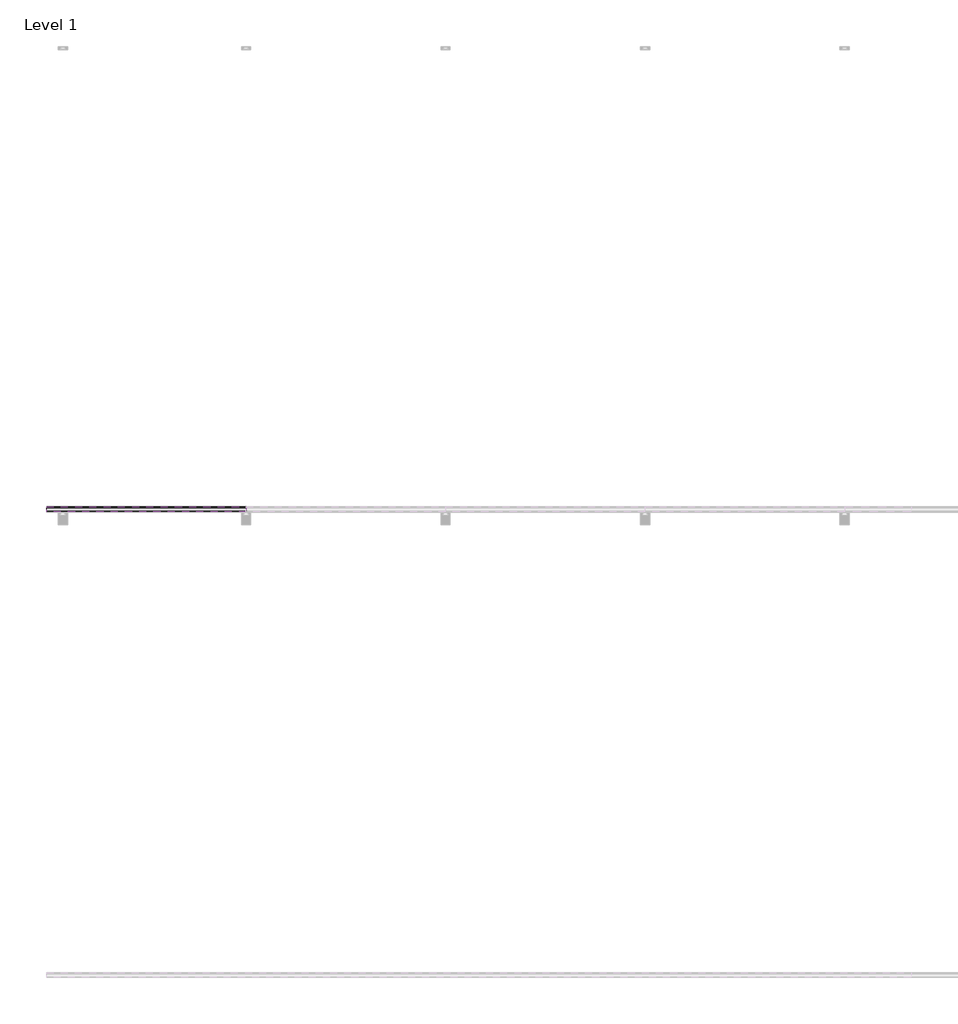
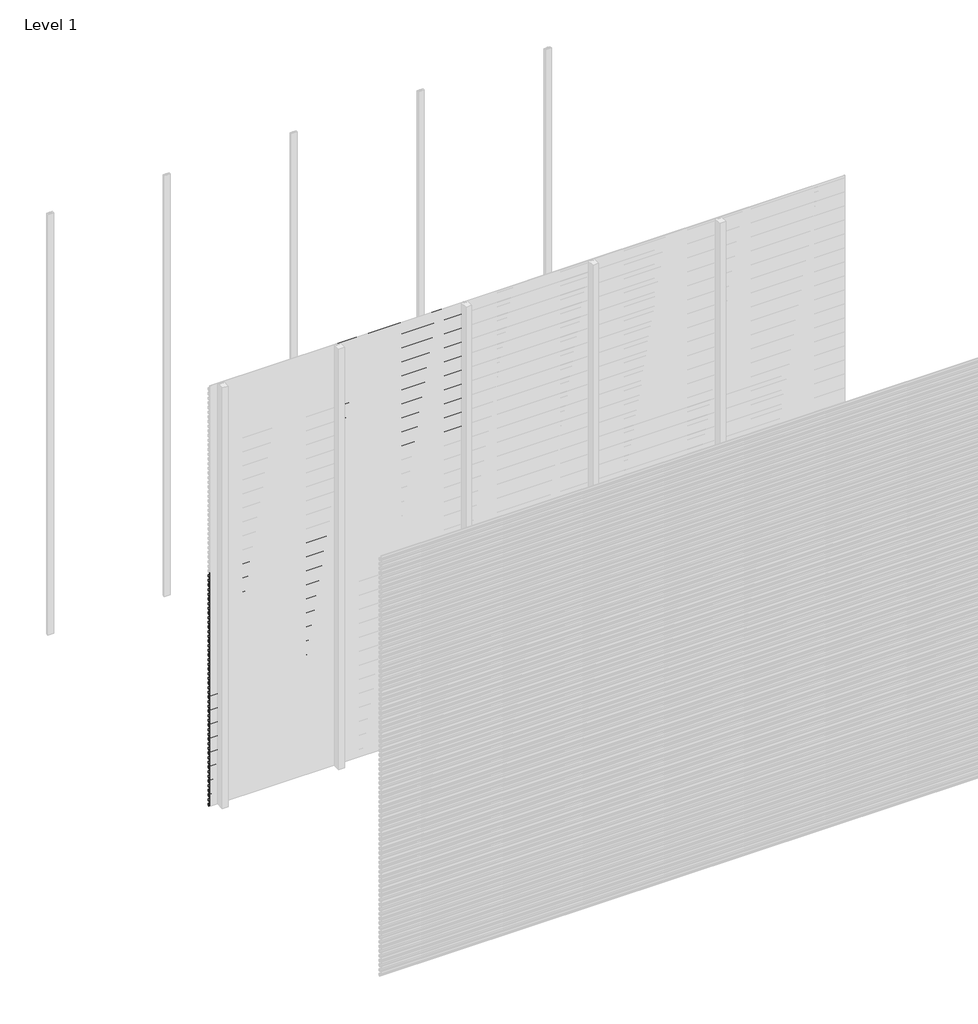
# One storey, part 43 of 96: 77 proxies.
"""IFC4 building model written with IfcOpenShell, lengths in millimetres."""

from ifc_helpers import new_model, si_unit, frame, origin, place, context, project, spatial, polyline, outline, extrude, element, save

model = new_model("IFC4")

# Units and contexts
model_context = context("Model", 3, world=origin())
ifc_project = project(units=[si_unit("LENGTHUNIT", "METRE", prefix="MILLI")], contexts=[model_context])

# Site, building, storey
site = spatial("IfcSite", under=ifc_project)
building = spatial("IfcBuilding", under=site)
storey = spatial("IfcBuildingStorey", under=building, Name="Level 1", Elevation=0.0)

# Proxies
placement = place(None, origin())
element("IfcBuildingElementProxy", 1, Name="Wall Sweeps", at=placement, inside=storey, context=model_context, shape_type="SweptSolid", body=[
    extrude(outline(polyline([(-29977.6, 1639.7655033), (-29977.6, 1625.4779188), (-29982.4114965, 1622.7), (-29982.4114965, 1623.9701706), (-29978.85, 1626.0264016), (-29978.85, 1639.0437382), (-29998.0, 1650.1000799), (-29998.0, 1665.0), (-29996.75, 1665.0), (-29996.75, 1650.8217609), (-29977.6, 1639.7655033)])), frame((0.0, 0.0, 0.0), z_axis=(1.0, 0.0, 0.0), x_axis=(0.0, 1.0, 0.0)), (0.0, 0.0, 1.0), 857.1428571),
])
element("IfcBuildingElementProxy", 2, Name="Wall Sweeps", at=placement, inside=storey, context=model_context, shape_type="SweptSolid", body=[
    extrude(outline(polyline([(-29977.6, 1606.4655033), (-29977.6, 1592.1779188), (-29982.4114965, 1589.4), (-29982.4114965, 1590.6701706), (-29978.85, 1592.7264016), (-29978.85, 1605.7437382), (-29998.0, 1616.8000799), (-29998.0, 1631.7), (-29996.75, 1631.7), (-29996.75, 1617.5217609), (-29977.6, 1606.4655033)])), frame((0.0, 0.0, 0.0), z_axis=(1.0, 0.0, 0.0), x_axis=(0.0, 1.0, 0.0)), (0.0, 0.0, 1.0), 857.1428571),
])
element("IfcBuildingElementProxy", 3, Name="Wall Sweeps", at=placement, inside=storey, context=model_context, shape_type="SweptSolid", body=[
    extrude(outline(polyline([(-29977.6, 1573.1655033), (-29977.6, 1558.8779188), (-29982.4114965, 1556.1), (-29982.4114965, 1557.3701706), (-29978.85, 1559.4264016), (-29978.85, 1572.4437382), (-29998.0, 1583.5000799), (-29998.0, 1598.4), (-29996.75, 1598.4), (-29996.75, 1584.2217609), (-29977.6, 1573.1655033)])), frame((0.0, 0.0, 0.0), z_axis=(1.0, 0.0, 0.0), x_axis=(0.0, 1.0, 0.0)), (0.0, 0.0, 1.0), 857.1428571),
])
element("IfcBuildingElementProxy", 4, Name="Wall Sweeps", at=placement, inside=storey, context=model_context, shape_type="SweptSolid", body=[
    extrude(outline(polyline([(-29977.6, 1539.8655033), (-29977.6, 1525.5779188), (-29982.4114965, 1522.8), (-29982.4114965, 1524.0701706), (-29978.85, 1526.1264016), (-29978.85, 1539.1437382), (-29998.0, 1550.2000799), (-29998.0, 1565.1), (-29996.75, 1565.1), (-29996.75, 1550.9217609), (-29977.6, 1539.8655033)])), frame((0.0, 0.0, 0.0), z_axis=(1.0, 0.0, 0.0), x_axis=(0.0, 1.0, 0.0)), (0.0, 0.0, 1.0), 857.1428571),
])
element("IfcBuildingElementProxy", 5, Name="Wall Sweeps", at=placement, inside=storey, context=model_context, shape_type="SweptSolid", body=[
    extrude(outline(polyline([(-29977.6, 1506.5655033), (-29977.6, 1492.2779188), (-29982.4114965, 1489.5), (-29982.4114965, 1490.7701706), (-29978.85, 1492.8264016), (-29978.85, 1505.8437382), (-29998.0, 1516.9000799), (-29998.0, 1531.8), (-29996.75, 1531.8), (-29996.75, 1517.6217609), (-29977.6, 1506.5655033)])), frame((0.0, 0.0, 0.0), z_axis=(1.0, 0.0, 0.0), x_axis=(0.0, 1.0, 0.0)), (0.0, 0.0, 1.0), 857.1428571),
])
element("IfcBuildingElementProxy", 6, Name="Wall Sweeps", at=placement, inside=storey, context=model_context, shape_type="SweptSolid", body=[
    extrude(outline(polyline([(-29977.6, 1473.2655033), (-29977.6, 1458.9779188), (-29982.4114965, 1456.2), (-29982.4114965, 1457.4701706), (-29978.85, 1459.5264016), (-29978.85, 1472.5437382), (-29998.0, 1483.6000799), (-29998.0, 1498.5), (-29996.75, 1498.5), (-29996.75, 1484.3217609), (-29977.6, 1473.2655033)])), frame((0.0, 0.0, 0.0), z_axis=(1.0, 0.0, 0.0), x_axis=(0.0, 1.0, 0.0)), (0.0, 0.0, 1.0), 857.1428571),
])
element("IfcBuildingElementProxy", 7, Name="Wall Sweeps", at=placement, inside=storey, context=model_context, shape_type="SweptSolid", body=[
    extrude(outline(polyline([(-29977.6, 1439.9655033), (-29977.6, 1425.6779188), (-29982.4114965, 1422.9), (-29982.4114965, 1424.1701706), (-29978.85, 1426.2264016), (-29978.85, 1439.2437382), (-29998.0, 1450.3000799), (-29998.0, 1465.2), (-29996.75, 1465.2), (-29996.75, 1451.0217609), (-29977.6, 1439.9655033)])), frame((0.0, 0.0, 0.0), z_axis=(1.0, 0.0, 0.0), x_axis=(0.0, 1.0, 0.0)), (0.0, 0.0, 1.0), 857.1428571),
])
element("IfcBuildingElementProxy", 8, Name="Wall Sweeps", at=placement, inside=storey, context=model_context, shape_type="SweptSolid", body=[
    extrude(outline(polyline([(-29977.6, 1406.6655033), (-29977.6, 1392.3779188), (-29982.4114965, 1389.6), (-29982.4114965, 1390.8701706), (-29978.85, 1392.9264016), (-29978.85, 1405.9437382), (-29998.0, 1417.0000799), (-29998.0, 1431.9), (-29996.75, 1431.9), (-29996.75, 1417.7217609), (-29977.6, 1406.6655033)])), frame((0.0, 0.0, 0.0), z_axis=(1.0, 0.0, 0.0), x_axis=(0.0, 1.0, 0.0)), (0.0, 0.0, 1.0), 857.1428571),
])
element("IfcBuildingElementProxy", 9, Name="Wall Sweeps", at=placement, inside=storey, context=model_context, shape_type="SweptSolid", body=[
    extrude(outline(polyline([(-29977.6, 1373.3655033), (-29977.6, 1359.0779188), (-29982.4114965, 1356.3), (-29982.4114965, 1357.5701706), (-29978.85, 1359.6264016), (-29978.85, 1372.6437382), (-29998.0, 1383.7000799), (-29998.0, 1398.6), (-29996.75, 1398.6), (-29996.75, 1384.4217609), (-29977.6, 1373.3655033)])), frame((0.0, 0.0, 0.0), z_axis=(1.0, 0.0, 0.0), x_axis=(0.0, 1.0, 0.0)), (0.0, 0.0, 1.0), 857.1428571),
])
element("IfcBuildingElementProxy", 10, Name="Wall Sweeps", at=placement, inside=storey, context=model_context, shape_type="SweptSolid", body=[
    extrude(outline(polyline([(-29977.6, 1340.0655033), (-29977.6, 1325.7779188), (-29982.4114965, 1323.0), (-29982.4114965, 1324.2701706), (-29978.85, 1326.3264016), (-29978.85, 1339.3437382), (-29998.0, 1350.4000799), (-29998.0, 1365.3), (-29996.75, 1365.3), (-29996.75, 1351.1217609), (-29977.6, 1340.0655033)])), frame((0.0, 0.0, 0.0), z_axis=(1.0, 0.0, 0.0), x_axis=(0.0, 1.0, 0.0)), (0.0, 0.0, 1.0), 857.1428571),
])
element("IfcBuildingElementProxy", 11, Name="Wall Sweeps", at=placement, inside=storey, context=model_context, shape_type="SweptSolid", body=[
    extrude(outline(polyline([(-29977.6, 1306.7655033), (-29977.6, 1292.4779188), (-29982.4114965, 1289.7), (-29982.4114965, 1290.9701706), (-29978.85, 1293.0264016), (-29978.85, 1306.0437382), (-29998.0, 1317.1000799), (-29998.0, 1332.0), (-29996.75, 1332.0), (-29996.75, 1317.8217609), (-29977.6, 1306.7655033)])), frame((0.0, 0.0, 0.0), z_axis=(1.0, 0.0, 0.0), x_axis=(0.0, 1.0, 0.0)), (0.0, 0.0, 1.0), 857.1428571),
])
element("IfcBuildingElementProxy", 12, Name="Wall Sweeps", at=placement, inside=storey, context=model_context, shape_type="SweptSolid", body=[
    extrude(outline(polyline([(-29977.6, 1273.4655033), (-29977.6, 1259.1779188), (-29982.4114965, 1256.4), (-29982.4114965, 1257.6701706), (-29978.85, 1259.7264016), (-29978.85, 1272.7437382), (-29998.0, 1283.8000799), (-29998.0, 1298.7), (-29996.75, 1298.7), (-29996.75, 1284.5217609), (-29977.6, 1273.4655033)])), frame((0.0, 0.0, 0.0), z_axis=(1.0, 0.0, 0.0), x_axis=(0.0, 1.0, 0.0)), (0.0, 0.0, 1.0), 857.1428571),
])
element("IfcBuildingElementProxy", 13, Name="Wall Sweeps", at=placement, inside=storey, context=model_context, shape_type="SweptSolid", body=[
    extrude(outline(polyline([(-29977.6, 1240.1655033), (-29977.6, 1225.8779188), (-29982.4114965, 1223.1), (-29982.4114965, 1224.3701706), (-29978.85, 1226.4264016), (-29978.85, 1239.4437382), (-29998.0, 1250.5000799), (-29998.0, 1265.4), (-29996.75, 1265.4), (-29996.75, 1251.2217609), (-29977.6, 1240.1655033)])), frame((0.0, 0.0, 0.0), z_axis=(1.0, 0.0, 0.0), x_axis=(0.0, 1.0, 0.0)), (0.0, 0.0, 1.0), 857.1428571),
])
element("IfcBuildingElementProxy", 14, Name="Wall Sweeps", at=placement, inside=storey, context=model_context, shape_type="SweptSolid", body=[
    extrude(outline(polyline([(-29977.6, 1206.8655033), (-29977.6, 1192.5779188), (-29982.4114965, 1189.8), (-29982.4114965, 1191.0701706), (-29978.85, 1193.1264016), (-29978.85, 1206.1437382), (-29998.0, 1217.2000799), (-29998.0, 1232.1), (-29996.75, 1232.1), (-29996.75, 1217.9217609), (-29977.6, 1206.8655033)])), frame((0.0, 0.0, 0.0), z_axis=(1.0, 0.0, 0.0), x_axis=(0.0, 1.0, 0.0)), (0.0, 0.0, 1.0), 857.1428571),
])
element("IfcBuildingElementProxy", 15, Name="Wall Sweeps", at=placement, inside=storey, context=model_context, shape_type="SweptSolid", body=[
    extrude(outline(polyline([(-29977.6, 1173.5655033), (-29977.6, 1159.2779188), (-29982.4114965, 1156.5), (-29982.4114965, 1157.7701706), (-29978.85, 1159.8264016), (-29978.85, 1172.8437382), (-29998.0, 1183.9000799), (-29998.0, 1198.8), (-29996.75, 1198.8), (-29996.75, 1184.6217609), (-29977.6, 1173.5655033)])), frame((0.0, 0.0, 0.0), z_axis=(1.0, 0.0, 0.0), x_axis=(0.0, 1.0, 0.0)), (0.0, 0.0, 1.0), 857.1428571),
])
element("IfcBuildingElementProxy", 16, Name="Wall Sweeps", at=placement, inside=storey, context=model_context, shape_type="SweptSolid", body=[
    extrude(outline(polyline([(-29977.6, 1140.2655033), (-29977.6, 1125.9779188), (-29982.4114965, 1123.2), (-29982.4114965, 1124.4701706), (-29978.85, 1126.5264016), (-29978.85, 1139.5437382), (-29998.0, 1150.6000799), (-29998.0, 1165.5), (-29996.75, 1165.5), (-29996.75, 1151.3217609), (-29977.6, 1140.2655033)])), frame((0.0, 0.0, 0.0), z_axis=(1.0, 0.0, 0.0), x_axis=(0.0, 1.0, 0.0)), (0.0, 0.0, 1.0), 857.1428571),
])
element("IfcBuildingElementProxy", 17, Name="Wall Sweeps", at=placement, inside=storey, context=model_context, shape_type="SweptSolid", body=[
    extrude(outline(polyline([(-29977.6, 1106.9655033), (-29977.6, 1092.6779188), (-29982.4114965, 1089.9), (-29982.4114965, 1091.1701706), (-29978.85, 1093.2264016), (-29978.85, 1106.2437382), (-29998.0, 1117.3000799), (-29998.0, 1132.2), (-29996.75, 1132.2), (-29996.75, 1118.0217609), (-29977.6, 1106.9655033)])), frame((0.0, 0.0, 0.0), z_axis=(1.0, 0.0, 0.0), x_axis=(0.0, 1.0, 0.0)), (0.0, 0.0, 1.0), 857.1428571),
])
element("IfcBuildingElementProxy", 18, Name="Wall Sweeps", at=placement, inside=storey, context=model_context, shape_type="SweptSolid", body=[
    extrude(outline(polyline([(-29977.6, 1073.6655033), (-29977.6, 1059.3779188), (-29982.4114965, 1056.6), (-29982.4114965, 1057.8701706), (-29978.85, 1059.9264016), (-29978.85, 1072.9437382), (-29998.0, 1084.0000799), (-29998.0, 1098.9), (-29996.75, 1098.9), (-29996.75, 1084.7217609), (-29977.6, 1073.6655033)])), frame((0.0, 0.0, 0.0), z_axis=(1.0, 0.0, 0.0), x_axis=(0.0, 1.0, 0.0)), (0.0, 0.0, 1.0), 857.1428571),
])
element("IfcBuildingElementProxy", 19, Name="Wall Sweeps", at=placement, inside=storey, context=model_context, shape_type="SweptSolid", body=[
    extrude(outline(polyline([(-29977.6, 1040.3655033), (-29977.6, 1026.0779188), (-29982.4114965, 1023.3), (-29982.4114965, 1024.5701706), (-29978.85, 1026.6264016), (-29978.85, 1039.6437382), (-29998.0, 1050.7000799), (-29998.0, 1065.6), (-29996.75, 1065.6), (-29996.75, 1051.4217609), (-29977.6, 1040.3655033)])), frame((0.0, 0.0, 0.0), z_axis=(1.0, 0.0, 0.0), x_axis=(0.0, 1.0, 0.0)), (0.0, 0.0, 1.0), 857.1428571),
])
element("IfcBuildingElementProxy", 20, Name="Wall Sweeps", at=placement, inside=storey, context=model_context, shape_type="SweptSolid", body=[
    extrude(outline(polyline([(-29977.6, 1007.0655033), (-29977.6, 992.7779188), (-29982.4114965, 990.0), (-29982.4114965, 991.2701706), (-29978.85, 993.3264016), (-29978.85, 1006.3437382), (-29998.0, 1017.4000799), (-29998.0, 1032.3), (-29996.75, 1032.3), (-29996.75, 1018.1217609), (-29977.6, 1007.0655033)])), frame((0.0, 0.0, 0.0), z_axis=(1.0, 0.0, 0.0), x_axis=(0.0, 1.0, 0.0)), (0.0, 0.0, 1.0), 857.1428571),
])
element("IfcBuildingElementProxy", 21, Name="Wall Sweeps", at=placement, inside=storey, context=model_context, shape_type="SweptSolid", body=[
    extrude(outline(polyline([(-29977.6, 973.7655033), (-29977.6, 959.4779188), (-29982.4114965, 956.7), (-29982.4114965, 957.9701706), (-29978.85, 960.0264016), (-29978.85, 973.0437382), (-29998.0, 984.1000799), (-29998.0, 999.0), (-29996.75, 999.0), (-29996.75, 984.8217609), (-29977.6, 973.7655033)])), frame((0.0, 0.0, 0.0), z_axis=(1.0, 0.0, 0.0), x_axis=(0.0, 1.0, 0.0)), (0.0, 0.0, 1.0), 857.1428571),
])
element("IfcBuildingElementProxy", 22, Name="Wall Sweeps", at=placement, inside=storey, context=model_context, shape_type="SweptSolid", body=[
    extrude(outline(polyline([(-29977.6, 940.4655033), (-29977.6, 926.1779188), (-29982.4114965, 923.4), (-29982.4114965, 924.6701706), (-29978.85, 926.7264016), (-29978.85, 939.7437382), (-29998.0, 950.8000799), (-29998.0, 965.7), (-29996.75, 965.7), (-29996.75, 951.5217609), (-29977.6, 940.4655033)])), frame((0.0, 0.0, 0.0), z_axis=(1.0, 0.0, 0.0), x_axis=(0.0, 1.0, 0.0)), (0.0, 0.0, 1.0), 857.1428571),
])
element("IfcBuildingElementProxy", 23, Name="Wall Sweeps", at=placement, inside=storey, context=model_context, shape_type="SweptSolid", body=[
    extrude(outline(polyline([(-29977.6, 907.1655033), (-29977.6, 892.8779188), (-29982.4114965, 890.1), (-29982.4114965, 891.3701706), (-29978.85, 893.4264016), (-29978.85, 906.4437382), (-29998.0, 917.5000799), (-29998.0, 932.4), (-29996.75, 932.4), (-29996.75, 918.2217609), (-29977.6, 907.1655033)])), frame((0.0, 0.0, 0.0), z_axis=(1.0, 0.0, 0.0), x_axis=(0.0, 1.0, 0.0)), (0.0, 0.0, 1.0), 857.1428571),
])
element("IfcBuildingElementProxy", 24, Name="Wall Sweeps", at=placement, inside=storey, context=model_context, shape_type="SweptSolid", body=[
    extrude(outline(polyline([(-29977.6, 873.8655033), (-29977.6, 859.5779188), (-29982.4114965, 856.8), (-29982.4114965, 858.0701706), (-29978.85, 860.1264016), (-29978.85, 873.1437382), (-29998.0, 884.2000799), (-29998.0, 899.1), (-29996.75, 899.1), (-29996.75, 884.9217609), (-29977.6, 873.8655033)])), frame((0.0, 0.0, 0.0), z_axis=(1.0, 0.0, 0.0), x_axis=(0.0, 1.0, 0.0)), (0.0, 0.0, 1.0), 857.1428571),
])
element("IfcBuildingElementProxy", 25, Name="Wall Sweeps", at=placement, inside=storey, context=model_context, shape_type="SweptSolid", body=[
    extrude(outline(polyline([(-29977.6, 840.5655033), (-29977.6, 826.2779188), (-29982.4114965, 823.5), (-29982.4114965, 824.7701706), (-29978.85, 826.8264016), (-29978.85, 839.8437382), (-29998.0, 850.9000799), (-29998.0, 865.8), (-29996.75, 865.8), (-29996.75, 851.6217609), (-29977.6, 840.5655033)])), frame((0.0, 0.0, 0.0), z_axis=(1.0, 0.0, 0.0), x_axis=(0.0, 1.0, 0.0)), (0.0, 0.0, 1.0), 857.1428571),
])
element("IfcBuildingElementProxy", 26, Name="Wall Sweeps", at=placement, inside=storey, context=model_context, shape_type="SweptSolid", body=[
    extrude(outline(polyline([(-29977.6, 807.2655033), (-29977.6, 792.9779188), (-29982.4114965, 790.2), (-29982.4114965, 791.4701706), (-29978.85, 793.5264016), (-29978.85, 806.5437382), (-29998.0, 817.6000799), (-29998.0, 832.5), (-29996.75, 832.5), (-29996.75, 818.3217609), (-29977.6, 807.2655033)])), frame((0.0, 0.0, 0.0), z_axis=(1.0, 0.0, 0.0), x_axis=(0.0, 1.0, 0.0)), (0.0, 0.0, 1.0), 857.1428571),
])
element("IfcBuildingElementProxy", 27, Name="Wall Sweeps", at=placement, inside=storey, context=model_context, shape_type="SweptSolid", body=[
    extrude(outline(polyline([(-29977.6, 773.9655033), (-29977.6, 759.6779188), (-29982.4114965, 756.9), (-29982.4114965, 758.1701706), (-29978.85, 760.2264016), (-29978.85, 773.2437382), (-29998.0, 784.3000799), (-29998.0, 799.2), (-29996.75, 799.2), (-29996.75, 785.0217609), (-29977.6, 773.9655033)])), frame((0.0, 0.0, 0.0), z_axis=(1.0, 0.0, 0.0), x_axis=(0.0, 1.0, 0.0)), (0.0, 0.0, 1.0), 857.1428571),
])
element("IfcBuildingElementProxy", 28, Name="Wall Sweeps", at=placement, inside=storey, context=model_context, shape_type="SweptSolid", body=[
    extrude(outline(polyline([(-29977.6, 740.6655033), (-29977.6, 726.3779188), (-29982.4114965, 723.6), (-29982.4114965, 724.8701706), (-29978.85, 726.9264016), (-29978.85, 739.9437382), (-29998.0, 751.0000799), (-29998.0, 765.9), (-29996.75, 765.9), (-29996.75, 751.7217609), (-29977.6, 740.6655033)])), frame((0.0, 0.0, 0.0), z_axis=(1.0, 0.0, 0.0), x_axis=(0.0, 1.0, 0.0)), (0.0, 0.0, 1.0), 857.1428571),
])
element("IfcBuildingElementProxy", 29, Name="Wall Sweeps", at=placement, inside=storey, context=model_context, shape_type="SweptSolid", body=[
    extrude(outline(polyline([(-29977.6, 707.3655033), (-29977.6, 693.0779188), (-29982.4114965, 690.3), (-29982.4114965, 691.5701706), (-29978.85, 693.6264016), (-29978.85, 706.6437382), (-29998.0, 717.7000799), (-29998.0, 732.6), (-29996.75, 732.6), (-29996.75, 718.4217609), (-29977.6, 707.3655033)])), frame((0.0, 0.0, 0.0), z_axis=(1.0, 0.0, 0.0), x_axis=(0.0, 1.0, 0.0)), (0.0, 0.0, 1.0), 857.1428571),
])
element("IfcBuildingElementProxy", 30, Name="Wall Sweeps", at=placement, inside=storey, context=model_context, shape_type="SweptSolid", body=[
    extrude(outline(polyline([(-29977.6, 674.0655033), (-29977.6, 659.7779188), (-29982.4114965, 657.0), (-29982.4114965, 658.2701706), (-29978.85, 660.3264016), (-29978.85, 673.3437382), (-29998.0, 684.4000799), (-29998.0, 699.3), (-29996.75, 699.3), (-29996.75, 685.1217609), (-29977.6, 674.0655033)])), frame((0.0, 0.0, 0.0), z_axis=(1.0, 0.0, 0.0), x_axis=(0.0, 1.0, 0.0)), (0.0, 0.0, 1.0), 857.1428571),
])
element("IfcBuildingElementProxy", 31, Name="Wall Sweeps", at=placement, inside=storey, context=model_context, shape_type="SweptSolid", body=[
    extrude(outline(polyline([(-29977.6, 640.7655033), (-29977.6, 626.4779188), (-29982.4114965, 623.7), (-29982.4114965, 624.9701706), (-29978.85, 627.0264016), (-29978.85, 640.0437382), (-29998.0, 651.1000799), (-29998.0, 666.0), (-29996.75, 666.0), (-29996.75, 651.8217609), (-29977.6, 640.7655033)])), frame((0.0, 0.0, 0.0), z_axis=(1.0, 0.0, 0.0), x_axis=(0.0, 1.0, 0.0)), (0.0, 0.0, 1.0), 857.1428571),
])
element("IfcBuildingElementProxy", 32, Name="Wall Sweeps", at=placement, inside=storey, context=model_context, shape_type="SweptSolid", body=[
    extrude(outline(polyline([(-29977.6, 607.4655033), (-29977.6, 593.1779188), (-29982.4114965, 590.4), (-29982.4114965, 591.6701706), (-29978.85, 593.7264016), (-29978.85, 606.7437382), (-29998.0, 617.8000799), (-29998.0, 632.7), (-29996.75, 632.7), (-29996.75, 618.5217609), (-29977.6, 607.4655033)])), frame((0.0, 0.0, 0.0), z_axis=(1.0, 0.0, 0.0), x_axis=(0.0, 1.0, 0.0)), (0.0, 0.0, 1.0), 857.1428571),
])
element("IfcBuildingElementProxy", 33, Name="Wall Sweeps", at=placement, inside=storey, context=model_context, shape_type="SweptSolid", body=[
    extrude(outline(polyline([(-29977.6, 574.1655033), (-29977.6, 559.8779188), (-29982.4114965, 557.1), (-29982.4114965, 558.3701706), (-29978.85, 560.4264016), (-29978.85, 573.4437382), (-29998.0, 584.5000799), (-29998.0, 599.4), (-29996.75, 599.4), (-29996.75, 585.2217609), (-29977.6, 574.1655033)])), frame((0.0, 0.0, 0.0), z_axis=(1.0, 0.0, 0.0), x_axis=(0.0, 1.0, 0.0)), (0.0, 0.0, 1.0), 857.1428571),
])
element("IfcBuildingElementProxy", 34, Name="Wall Sweeps", at=placement, inside=storey, context=model_context, shape_type="SweptSolid", body=[
    extrude(outline(polyline([(-29977.6, 540.8655033), (-29977.6, 526.5779188), (-29982.4114965, 523.8), (-29982.4114965, 525.0701706), (-29978.85, 527.1264016), (-29978.85, 540.1437382), (-29998.0, 551.2000799), (-29998.0, 566.1), (-29996.75, 566.1), (-29996.75, 551.9217609), (-29977.6, 540.8655033)])), frame((0.0, 0.0, 0.0), z_axis=(1.0, 0.0, 0.0), x_axis=(0.0, 1.0, 0.0)), (0.0, 0.0, 1.0), 857.1428571),
])
element("IfcBuildingElementProxy", 35, Name="Wall Sweeps", at=placement, inside=storey, context=model_context, shape_type="SweptSolid", body=[
    extrude(outline(polyline([(-29977.6, 507.5655033), (-29977.6, 493.2779188), (-29982.4114965, 490.5), (-29982.4114965, 491.7701706), (-29978.85, 493.8264016), (-29978.85, 506.8437382), (-29998.0, 517.9000799), (-29998.0, 532.8), (-29996.75, 532.8), (-29996.75, 518.6217609), (-29977.6, 507.5655033)])), frame((0.0, 0.0, 0.0), z_axis=(1.0, 0.0, 0.0), x_axis=(0.0, 1.0, 0.0)), (0.0, 0.0, 1.0), 857.1428571),
])
element("IfcBuildingElementProxy", 36, Name="Wall Sweeps", at=placement, inside=storey, context=model_context, shape_type="SweptSolid", body=[
    extrude(outline(polyline([(-29977.6, 474.2655033), (-29977.6, 459.9779188), (-29982.4114965, 457.2), (-29982.4114965, 458.4701706), (-29978.85, 460.5264016), (-29978.85, 473.5437382), (-29998.0, 484.6000799), (-29998.0, 499.5), (-29996.75, 499.5), (-29996.75, 485.3217609), (-29977.6, 474.2655033)])), frame((0.0, 0.0, 0.0), z_axis=(1.0, 0.0, 0.0), x_axis=(0.0, 1.0, 0.0)), (0.0, 0.0, 1.0), 857.1428571),
])
element("IfcBuildingElementProxy", 37, Name="Wall Sweeps", at=placement, inside=storey, context=model_context, shape_type="SweptSolid", body=[
    extrude(outline(polyline([(-29977.6, 440.9655033), (-29977.6, 426.6779188), (-29982.4114965, 423.9), (-29982.4114965, 425.1701706), (-29978.85, 427.2264016), (-29978.85, 440.2437382), (-29998.0, 451.3000799), (-29998.0, 466.2), (-29996.75, 466.2), (-29996.75, 452.0217609), (-29977.6, 440.9655033)])), frame((0.0, 0.0, 0.0), z_axis=(1.0, 0.0, 0.0), x_axis=(0.0, 1.0, 0.0)), (0.0, 0.0, 1.0), 857.1428571),
])
element("IfcBuildingElementProxy", 38, Name="Wall Sweeps", at=placement, inside=storey, context=model_context, shape_type="SweptSolid", body=[
    extrude(outline(polyline([(-29977.6, 407.6655033), (-29977.6, 393.3779188), (-29982.4114965, 390.6), (-29982.4114965, 391.8701706), (-29978.85, 393.9264016), (-29978.85, 406.9437382), (-29998.0, 418.0000799), (-29998.0, 432.9), (-29996.75, 432.9), (-29996.75, 418.7217609), (-29977.6, 407.6655033)])), frame((0.0, 0.0, 0.0), z_axis=(1.0, 0.0, 0.0), x_axis=(0.0, 1.0, 0.0)), (0.0, 0.0, 1.0), 857.1428571),
])
element("IfcBuildingElementProxy", 39, Name="Wall Sweeps", at=placement, inside=storey, context=model_context, shape_type="SweptSolid", body=[
    extrude(outline(polyline([(-29977.6, 374.3655033), (-29977.6, 360.0779188), (-29982.4114965, 357.3), (-29982.4114965, 358.5701706), (-29978.85, 360.6264016), (-29978.85, 373.6437382), (-29998.0, 384.7000799), (-29998.0, 399.6), (-29996.75, 399.6), (-29996.75, 385.4217609), (-29977.6, 374.3655033)])), frame((0.0, 0.0, 0.0), z_axis=(1.0, 0.0, 0.0), x_axis=(0.0, 1.0, 0.0)), (0.0, 0.0, 1.0), 857.1428571),
])
element("IfcBuildingElementProxy", 40, Name="Wall Sweeps", at=placement, inside=storey, context=model_context, shape_type="SweptSolid", body=[
    extrude(outline(polyline([(-29977.6, 341.0655033), (-29977.6, 326.7779188), (-29982.4114965, 324.0), (-29982.4114965, 325.2701706), (-29978.85, 327.3264016), (-29978.85, 340.3437382), (-29998.0, 351.4000799), (-29998.0, 366.3), (-29996.75, 366.3), (-29996.75, 352.1217609), (-29977.6, 341.0655033)])), frame((0.0, 0.0, 0.0), z_axis=(1.0, 0.0, 0.0), x_axis=(0.0, 1.0, 0.0)), (0.0, 0.0, 1.0), 857.1428571),
])
element("IfcBuildingElementProxy", 41, Name="Wall Sweeps", at=placement, inside=storey, context=model_context, shape_type="SweptSolid", body=[
    extrude(outline(polyline([(-29977.6, 307.7655033), (-29977.6, 293.4779188), (-29982.4114965, 290.7), (-29982.4114965, 291.9701706), (-29978.85, 294.0264016), (-29978.85, 307.0437382), (-29998.0, 318.1000799), (-29998.0, 333.0), (-29996.75, 333.0), (-29996.75, 318.8217609), (-29977.6, 307.7655033)])), frame((0.0, 0.0, 0.0), z_axis=(1.0, 0.0, 0.0), x_axis=(0.0, 1.0, 0.0)), (0.0, 0.0, 1.0), 857.1428571),
])
element("IfcBuildingElementProxy", 42, Name="Wall Sweeps", at=placement, inside=storey, context=model_context, shape_type="SweptSolid", body=[
    extrude(outline(polyline([(-29977.6, 274.4655033), (-29977.6, 260.1779188), (-29982.4114965, 257.4), (-29982.4114965, 258.6701706), (-29978.85, 260.7264016), (-29978.85, 273.7437382), (-29998.0, 284.8000799), (-29998.0, 299.7), (-29996.75, 299.7), (-29996.75, 285.5217609), (-29977.6, 274.4655033)])), frame((0.0, 0.0, 0.0), z_axis=(1.0, 0.0, 0.0), x_axis=(0.0, 1.0, 0.0)), (0.0, 0.0, 1.0), 857.1428571),
])
element("IfcBuildingElementProxy", 43, Name="Wall Sweeps", at=placement, inside=storey, context=model_context, shape_type="SweptSolid", body=[
    extrude(outline(polyline([(-29977.6, 241.1655033), (-29977.6, 226.8779188), (-29982.4114965, 224.1), (-29982.4114965, 225.3701706), (-29978.85, 227.4264016), (-29978.85, 240.4437382), (-29998.0, 251.5000799), (-29998.0, 266.4), (-29996.75, 266.4), (-29996.75, 252.2217609), (-29977.6, 241.1655033)])), frame((0.0, 0.0, 0.0), z_axis=(1.0, 0.0, 0.0), x_axis=(0.0, 1.0, 0.0)), (0.0, 0.0, 1.0), 857.1428571),
])
element("IfcBuildingElementProxy", 44, Name="Wall Sweeps", at=placement, inside=storey, context=model_context, shape_type="SweptSolid", body=[
    extrude(outline(polyline([(-29977.6, 207.8655033), (-29977.6, 193.5779188), (-29982.4114965, 190.8), (-29982.4114965, 192.0701706), (-29978.85, 194.1264016), (-29978.85, 207.1437382), (-29998.0, 218.2000799), (-29998.0, 233.1), (-29996.75, 233.1), (-29996.75, 218.9217609), (-29977.6, 207.8655033)])), frame((0.0, 0.0, 0.0), z_axis=(1.0, 0.0, 0.0), x_axis=(0.0, 1.0, 0.0)), (0.0, 0.0, 1.0), 857.1428571),
])
element("IfcBuildingElementProxy", 45, Name="Wall Sweeps", at=placement, inside=storey, context=model_context, shape_type="SweptSolid", body=[
    extrude(outline(polyline([(-29977.6, 174.5655033), (-29977.6, 160.2779188), (-29982.4114965, 157.5), (-29982.4114965, 158.7701706), (-29978.85, 160.8264016), (-29978.85, 173.8437382), (-29998.0, 184.9000799), (-29998.0, 199.8), (-29996.75, 199.8), (-29996.75, 185.6217609), (-29977.6, 174.5655033)])), frame((0.0, 0.0, 0.0), z_axis=(1.0, 0.0, 0.0), x_axis=(0.0, 1.0, 0.0)), (0.0, 0.0, 1.0), 857.1428571),
])
element("IfcBuildingElementProxy", 46, Name="Wall Sweeps", at=placement, inside=storey, context=model_context, shape_type="SweptSolid", body=[
    extrude(outline(polyline([(-29977.6, 141.2655033), (-29977.6, 126.9779188), (-29982.4114965, 124.2), (-29982.4114965, 125.4701706), (-29978.85, 127.5264016), (-29978.85, 140.5437382), (-29998.0, 151.6000799), (-29998.0, 166.5), (-29996.75, 166.5), (-29996.75, 152.3217609), (-29977.6, 141.2655033)])), frame((0.0, 0.0, 0.0), z_axis=(1.0, 0.0, 0.0), x_axis=(0.0, 1.0, 0.0)), (0.0, 0.0, 1.0), 857.1428571),
])
element("IfcBuildingElementProxy", 47, Name="Wall Sweeps", at=placement, inside=storey, context=model_context, shape_type="SweptSolid", body=[
    extrude(outline(polyline([(-29977.6, 107.9655033), (-29977.6, 93.6779188), (-29982.4114965, 90.9), (-29982.4114965, 92.1701706), (-29978.85, 94.2264016), (-29978.85, 107.2437382), (-29998.0, 118.3000799), (-29998.0, 133.2), (-29996.75, 133.2), (-29996.75, 119.0217609), (-29977.6, 107.9655033)])), frame((0.0, 0.0, 0.0), z_axis=(1.0, 0.0, 0.0), x_axis=(0.0, 1.0, 0.0)), (0.0, 0.0, 1.0), 857.1428571),
])
element("IfcBuildingElementProxy", 48, Name="Wall Sweeps", at=placement, inside=storey, context=model_context, shape_type="SweptSolid", body=[
    extrude(outline(polyline([(-29977.6, 74.6655033), (-29977.6, 60.3779188), (-29982.4114965, 57.6), (-29982.4114965, 58.8701706), (-29978.85, 60.9264016), (-29978.85, 73.9437382), (-29998.0, 85.0000799), (-29998.0, 99.9), (-29996.75, 99.9), (-29996.75, 85.7217609), (-29977.6, 74.6655033)])), frame((0.0, 0.0, 0.0), z_axis=(1.0, 0.0, 0.0), x_axis=(0.0, 1.0, 0.0)), (0.0, 0.0, 1.0), 857.1428571),
])
element("IfcBuildingElementProxy", 49, Name="Wall Sweeps", at=placement, inside=storey, context=model_context, shape_type="SweptSolid", body=[
    extrude(outline(polyline([(-29977.6, 41.3655033), (-29977.6, 27.0779188), (-29982.4114965, 24.3), (-29982.4114965, 25.5701706), (-29978.85, 27.6264016), (-29978.85, 40.6437382), (-29998.0, 51.7000799), (-29998.0, 66.6), (-29996.75, 66.6), (-29996.75, 52.4217609), (-29977.6, 41.3655033)])), frame((0.0, 0.0, 0.0), z_axis=(1.0, 0.0, 0.0), x_axis=(0.0, 1.0, 0.0)), (0.0, 0.0, 1.0), 857.1428571),
])
element("IfcBuildingElementProxy", 50, Name="Wall Sweeps", at=placement, inside=storey, context=model_context, shape_type="SweptSolid", body=[
    extrude(outline(polyline([(-29977.6, 8.0655033), (-29977.6, -6.2220812), (-29982.4114965, -9.0), (-29982.4114965, -7.7298294), (-29978.85, -5.6735984), (-29978.85, 7.3437382), (-29998.0, 18.4000799), (-29998.0, 33.3), (-29996.75, 33.3), (-29996.75, 19.1217609), (-29977.6, 8.0655033)])), frame((0.0, 0.0, 0.0), z_axis=(1.0, 0.0, 0.0), x_axis=(0.0, 1.0, 0.0)), (0.0, 0.0, 1.0), 857.1428571),
])
element("IfcBuildingElementProxy", 51, Name="Wall Sweeps", at=placement, inside=storey, context=model_context, shape_type="SweptSolid", body=[
    extrude(outline(polyline([(-29977.6, 2971.7655033), (-29977.6, 2957.4779188), (-29982.4114965, 2954.7), (-29982.4114965, 2955.9701706), (-29978.85, 2958.0264016), (-29978.85, 2971.0437382), (-29998.0, 2982.1000799), (-29998.0, 2997.0), (-29996.75, 2997.0), (-29996.75, 2982.8217609), (-29977.6, 2971.7655033)])), frame((857.1428571, 0.0, 0.0), z_axis=(1.0, 0.0, 0.0), x_axis=(0.0, 1.0, 0.0)), (0.0, 0.0, 1.0), 857.1428571),
])
element("IfcBuildingElementProxy", 52, Name="Wall Sweeps", at=placement, inside=storey, context=model_context, shape_type="SweptSolid", body=[
    extrude(outline(polyline([(-29977.6, 2938.4655033), (-29977.6, 2924.1779188), (-29982.4114965, 2921.4), (-29982.4114965, 2922.6701706), (-29978.85, 2924.7264016), (-29978.85, 2937.7437382), (-29998.0, 2948.8000799), (-29998.0, 2963.7), (-29996.75, 2963.7), (-29996.75, 2949.5217609), (-29977.6, 2938.4655033)])), frame((857.1428571, 0.0, 0.0), z_axis=(1.0, 0.0, 0.0), x_axis=(0.0, 1.0, 0.0)), (0.0, 0.0, 1.0), 857.1428571),
])
element("IfcBuildingElementProxy", 53, Name="Wall Sweeps", at=placement, inside=storey, context=model_context, shape_type="SweptSolid", body=[
    extrude(outline(polyline([(-29977.6, 2905.1655033), (-29977.6, 2890.8779188), (-29982.4114965, 2888.1), (-29982.4114965, 2889.3701706), (-29978.85, 2891.4264016), (-29978.85, 2904.4437382), (-29998.0, 2915.5000799), (-29998.0, 2930.4), (-29996.75, 2930.4), (-29996.75, 2916.2217609), (-29977.6, 2905.1655033)])), frame((857.1428571, 0.0, 0.0), z_axis=(1.0, 0.0, 0.0), x_axis=(0.0, 1.0, 0.0)), (0.0, 0.0, 1.0), 857.1428571),
])
element("IfcBuildingElementProxy", 54, Name="Wall Sweeps", at=placement, inside=storey, context=model_context, shape_type="SweptSolid", body=[
    extrude(outline(polyline([(-29977.6, 2871.8655033), (-29977.6, 2857.5779188), (-29982.4114965, 2854.8), (-29982.4114965, 2856.0701706), (-29978.85, 2858.1264016), (-29978.85, 2871.1437382), (-29998.0, 2882.2000799), (-29998.0, 2897.1), (-29996.75, 2897.1), (-29996.75, 2882.9217609), (-29977.6, 2871.8655033)])), frame((857.1428571, 0.0, 0.0), z_axis=(1.0, 0.0, 0.0), x_axis=(0.0, 1.0, 0.0)), (0.0, 0.0, 1.0), 857.1428571),
])
element("IfcBuildingElementProxy", 55, Name="Wall Sweeps", at=placement, inside=storey, context=model_context, shape_type="SweptSolid", body=[
    extrude(outline(polyline([(-29977.6, 2838.5655033), (-29977.6, 2824.2779188), (-29982.4114965, 2821.5), (-29982.4114965, 2822.7701706), (-29978.85, 2824.8264016), (-29978.85, 2837.8437382), (-29998.0, 2848.9000799), (-29998.0, 2863.8), (-29996.75, 2863.8), (-29996.75, 2849.6217609), (-29977.6, 2838.5655033)])), frame((857.1428571, 0.0, 0.0), z_axis=(1.0, 0.0, 0.0), x_axis=(0.0, 1.0, 0.0)), (0.0, 0.0, 1.0), 857.1428571),
])
element("IfcBuildingElementProxy", 56, Name="Wall Sweeps", at=placement, inside=storey, context=model_context, shape_type="SweptSolid", body=[
    extrude(outline(polyline([(-29977.6, 2805.2655033), (-29977.6, 2790.9779188), (-29982.4114965, 2788.2), (-29982.4114965, 2789.4701706), (-29978.85, 2791.5264016), (-29978.85, 2804.5437382), (-29998.0, 2815.6000799), (-29998.0, 2830.5), (-29996.75, 2830.5), (-29996.75, 2816.3217609), (-29977.6, 2805.2655033)])), frame((857.1428571, 0.0, 0.0), z_axis=(1.0, 0.0, 0.0), x_axis=(0.0, 1.0, 0.0)), (0.0, 0.0, 1.0), 857.1428571),
])
element("IfcBuildingElementProxy", 57, Name="Wall Sweeps", at=placement, inside=storey, context=model_context, shape_type="SweptSolid", body=[
    extrude(outline(polyline([(-29977.6, 2771.9655033), (-29977.6, 2757.6779188), (-29982.4114965, 2754.9), (-29982.4114965, 2756.1701706), (-29978.85, 2758.2264016), (-29978.85, 2771.2437382), (-29998.0, 2782.3000799), (-29998.0, 2797.2), (-29996.75, 2797.2), (-29996.75, 2783.0217609), (-29977.6, 2771.9655033)])), frame((857.1428571, 0.0, 0.0), z_axis=(1.0, 0.0, 0.0), x_axis=(0.0, 1.0, 0.0)), (0.0, 0.0, 1.0), 857.1428571),
])
element("IfcBuildingElementProxy", 58, Name="Wall Sweeps", at=placement, inside=storey, context=model_context, shape_type="SweptSolid", body=[
    extrude(outline(polyline([(-29977.6, 2738.6655033), (-29977.6, 2724.3779188), (-29982.4114965, 2721.6), (-29982.4114965, 2722.8701706), (-29978.85, 2724.9264016), (-29978.85, 2737.9437382), (-29998.0, 2749.0000799), (-29998.0, 2763.9), (-29996.75, 2763.9), (-29996.75, 2749.7217609), (-29977.6, 2738.6655033)])), frame((857.1428571, 0.0, 0.0), z_axis=(1.0, 0.0, 0.0), x_axis=(0.0, 1.0, 0.0)), (0.0, 0.0, 1.0), 857.1428571),
])
element("IfcBuildingElementProxy", 59, Name="Wall Sweeps", at=placement, inside=storey, context=model_context, shape_type="SweptSolid", body=[
    extrude(outline(polyline([(-29977.6, 2705.3655033), (-29977.6, 2691.0779188), (-29982.4114965, 2688.3), (-29982.4114965, 2689.5701706), (-29978.85, 2691.6264016), (-29978.85, 2704.6437382), (-29998.0, 2715.7000799), (-29998.0, 2730.6), (-29996.75, 2730.6), (-29996.75, 2716.4217609), (-29977.6, 2705.3655033)])), frame((857.1428571, 0.0, 0.0), z_axis=(1.0, 0.0, 0.0), x_axis=(0.0, 1.0, 0.0)), (0.0, 0.0, 1.0), 857.1428571),
])
element("IfcBuildingElementProxy", 60, Name="Wall Sweeps", at=placement, inside=storey, context=model_context, shape_type="SweptSolid", body=[
    extrude(outline(polyline([(-29977.6, 2672.0655033), (-29977.6, 2657.7779188), (-29982.4114965, 2655.0), (-29982.4114965, 2656.2701706), (-29978.85, 2658.3264016), (-29978.85, 2671.3437382), (-29998.0, 2682.4000799), (-29998.0, 2697.3), (-29996.75, 2697.3), (-29996.75, 2683.1217609), (-29977.6, 2672.0655033)])), frame((857.1428571, 0.0, 0.0), z_axis=(1.0, 0.0, 0.0), x_axis=(0.0, 1.0, 0.0)), (0.0, 0.0, 1.0), 857.1428571),
])
element("IfcBuildingElementProxy", 61, Name="Wall Sweeps", at=placement, inside=storey, context=model_context, shape_type="SweptSolid", body=[
    extrude(outline(polyline([(-29977.6, 2638.7655033), (-29977.6, 2624.4779188), (-29982.4114965, 2621.7), (-29982.4114965, 2622.9701706), (-29978.85, 2625.0264016), (-29978.85, 2638.0437382), (-29998.0, 2649.1000799), (-29998.0, 2664.0), (-29996.75, 2664.0), (-29996.75, 2649.8217609), (-29977.6, 2638.7655033)])), frame((857.1428571, 0.0, 0.0), z_axis=(1.0, 0.0, 0.0), x_axis=(0.0, 1.0, 0.0)), (0.0, 0.0, 1.0), 857.1428571),
])
element("IfcBuildingElementProxy", 62, Name="Wall Sweeps", at=placement, inside=storey, context=model_context, shape_type="SweptSolid", body=[
    extrude(outline(polyline([(-29977.6, 2605.4655033), (-29977.6, 2591.1779188), (-29982.4114965, 2588.4), (-29982.4114965, 2589.6701706), (-29978.85, 2591.7264016), (-29978.85, 2604.7437382), (-29998.0, 2615.8000799), (-29998.0, 2630.7), (-29996.75, 2630.7), (-29996.75, 2616.5217609), (-29977.6, 2605.4655033)])), frame((857.1428571, 0.0, 0.0), z_axis=(1.0, 0.0, 0.0), x_axis=(0.0, 1.0, 0.0)), (0.0, 0.0, 1.0), 857.1428571),
])
element("IfcBuildingElementProxy", 63, Name="Wall Sweeps", at=placement, inside=storey, context=model_context, shape_type="SweptSolid", body=[
    extrude(outline(polyline([(-29977.6, 2572.1655033), (-29977.6, 2557.8779188), (-29982.4114965, 2555.1), (-29982.4114965, 2556.3701706), (-29978.85, 2558.4264016), (-29978.85, 2571.4437382), (-29998.0, 2582.5000799), (-29998.0, 2597.4), (-29996.75, 2597.4), (-29996.75, 2583.2217609), (-29977.6, 2572.1655033)])), frame((857.1428571, 0.0, 0.0), z_axis=(1.0, 0.0, 0.0), x_axis=(0.0, 1.0, 0.0)), (0.0, 0.0, 1.0), 857.1428571),
])
element("IfcBuildingElementProxy", 64, Name="Wall Sweeps", at=placement, inside=storey, context=model_context, shape_type="SweptSolid", body=[
    extrude(outline(polyline([(-29977.6, 2538.8655033), (-29977.6, 2524.5779188), (-29982.4114965, 2521.8), (-29982.4114965, 2523.0701706), (-29978.85, 2525.1264016), (-29978.85, 2538.1437382), (-29998.0, 2549.2000799), (-29998.0, 2564.1), (-29996.75, 2564.1), (-29996.75, 2549.9217609), (-29977.6, 2538.8655033)])), frame((857.1428571, 0.0, 0.0), z_axis=(1.0, 0.0, 0.0), x_axis=(0.0, 1.0, 0.0)), (0.0, 0.0, 1.0), 857.1428571),
])
element("IfcBuildingElementProxy", 65, Name="Wall Sweeps", at=placement, inside=storey, context=model_context, shape_type="SweptSolid", body=[
    extrude(outline(polyline([(-29977.6, 2505.5655033), (-29977.6, 2491.2779188), (-29982.4114965, 2488.5), (-29982.4114965, 2489.7701706), (-29978.85, 2491.8264016), (-29978.85, 2504.8437382), (-29998.0, 2515.9000799), (-29998.0, 2530.8), (-29996.75, 2530.8), (-29996.75, 2516.6217609), (-29977.6, 2505.5655033)])), frame((857.1428571, 0.0, 0.0), z_axis=(1.0, 0.0, 0.0), x_axis=(0.0, 1.0, 0.0)), (0.0, 0.0, 1.0), 857.1428571),
])
element("IfcBuildingElementProxy", 66, Name="Wall Sweeps", at=placement, inside=storey, context=model_context, shape_type="SweptSolid", body=[
    extrude(outline(polyline([(-29977.6, 2472.2655033), (-29977.6, 2457.9779188), (-29982.4114965, 2455.2), (-29982.4114965, 2456.4701706), (-29978.85, 2458.5264016), (-29978.85, 2471.5437382), (-29998.0, 2482.6000799), (-29998.0, 2497.5), (-29996.75, 2497.5), (-29996.75, 2483.3217609), (-29977.6, 2472.2655033)])), frame((857.1428571, 0.0, 0.0), z_axis=(1.0, 0.0, 0.0), x_axis=(0.0, 1.0, 0.0)), (0.0, 0.0, 1.0), 857.1428571),
])
element("IfcBuildingElementProxy", 67, Name="Wall Sweeps", at=placement, inside=storey, context=model_context, shape_type="SweptSolid", body=[
    extrude(outline(polyline([(-29977.6, 2438.9655033), (-29977.6, 2424.6779188), (-29982.4114965, 2421.9), (-29982.4114965, 2423.1701706), (-29978.85, 2425.2264016), (-29978.85, 2438.2437382), (-29998.0, 2449.3000799), (-29998.0, 2464.2), (-29996.75, 2464.2), (-29996.75, 2450.0217609), (-29977.6, 2438.9655033)])), frame((857.1428571, 0.0, 0.0), z_axis=(1.0, 0.0, 0.0), x_axis=(0.0, 1.0, 0.0)), (0.0, 0.0, 1.0), 857.1428571),
])
element("IfcBuildingElementProxy", 68, Name="Wall Sweeps", at=placement, inside=storey, context=model_context, shape_type="SweptSolid", body=[
    extrude(outline(polyline([(-29977.6, 2405.6655033), (-29977.6, 2391.3779188), (-29982.4114965, 2388.6), (-29982.4114965, 2389.8701706), (-29978.85, 2391.9264016), (-29978.85, 2404.9437382), (-29998.0, 2416.0000799), (-29998.0, 2430.9), (-29996.75, 2430.9), (-29996.75, 2416.7217609), (-29977.6, 2405.6655033)])), frame((857.1428571, 0.0, 0.0), z_axis=(1.0, 0.0, 0.0), x_axis=(0.0, 1.0, 0.0)), (0.0, 0.0, 1.0), 857.1428571),
])
element("IfcBuildingElementProxy", 69, Name="Wall Sweeps", at=placement, inside=storey, context=model_context, shape_type="SweptSolid", body=[
    extrude(outline(polyline([(-29977.6, 2372.3655033), (-29977.6, 2358.0779188), (-29982.4114965, 2355.3), (-29982.4114965, 2356.5701706), (-29978.85, 2358.6264016), (-29978.85, 2371.6437382), (-29998.0, 2382.7000799), (-29998.0, 2397.6), (-29996.75, 2397.6), (-29996.75, 2383.4217609), (-29977.6, 2372.3655033)])), frame((857.1428571, 0.0, 0.0), z_axis=(1.0, 0.0, 0.0), x_axis=(0.0, 1.0, 0.0)), (0.0, 0.0, 1.0), 857.1428571),
])
element("IfcBuildingElementProxy", 70, Name="Wall Sweeps", at=placement, inside=storey, context=model_context, shape_type="SweptSolid", body=[
    extrude(outline(polyline([(-29977.6, 2339.0655033), (-29977.6, 2324.7779188), (-29982.4114965, 2322.0), (-29982.4114965, 2323.2701706), (-29978.85, 2325.3264016), (-29978.85, 2338.3437382), (-29998.0, 2349.4000799), (-29998.0, 2364.3), (-29996.75, 2364.3), (-29996.75, 2350.1217609), (-29977.6, 2339.0655033)])), frame((857.1428571, 0.0, 0.0), z_axis=(1.0, 0.0, 0.0), x_axis=(0.0, 1.0, 0.0)), (0.0, 0.0, 1.0), 857.1428571),
])
element("IfcBuildingElementProxy", 71, Name="Wall Sweeps", at=placement, inside=storey, context=model_context, shape_type="SweptSolid", body=[
    extrude(outline(polyline([(-29977.6, 2305.7655033), (-29977.6, 2291.4779188), (-29982.4114965, 2288.7), (-29982.4114965, 2289.9701706), (-29978.85, 2292.0264016), (-29978.85, 2305.0437382), (-29998.0, 2316.1000799), (-29998.0, 2331.0), (-29996.75, 2331.0), (-29996.75, 2316.8217609), (-29977.6, 2305.7655033)])), frame((857.1428571, 0.0, 0.0), z_axis=(1.0, 0.0, 0.0), x_axis=(0.0, 1.0, 0.0)), (0.0, 0.0, 1.0), 857.1428571),
])
element("IfcBuildingElementProxy", 72, Name="Wall Sweeps", at=placement, inside=storey, context=model_context, shape_type="SweptSolid", body=[
    extrude(outline(polyline([(-29977.6, 2272.4655033), (-29977.6, 2258.1779188), (-29982.4114965, 2255.4), (-29982.4114965, 2256.6701706), (-29978.85, 2258.7264016), (-29978.85, 2271.7437382), (-29998.0, 2282.8000799), (-29998.0, 2297.7), (-29996.75, 2297.7), (-29996.75, 2283.5217609), (-29977.6, 2272.4655033)])), frame((857.1428571, 0.0, 0.0), z_axis=(1.0, 0.0, 0.0), x_axis=(0.0, 1.0, 0.0)), (0.0, 0.0, 1.0), 857.1428571),
])
element("IfcBuildingElementProxy", 73, Name="Wall Sweeps", at=placement, inside=storey, context=model_context, shape_type="SweptSolid", body=[
    extrude(outline(polyline([(-29977.6, 2239.1655033), (-29977.6, 2224.8779188), (-29982.4114965, 2222.1), (-29982.4114965, 2223.3701706), (-29978.85, 2225.4264016), (-29978.85, 2238.4437382), (-29998.0, 2249.5000799), (-29998.0, 2264.4), (-29996.75, 2264.4), (-29996.75, 2250.2217609), (-29977.6, 2239.1655033)])), frame((857.1428571, 0.0, 0.0), z_axis=(1.0, 0.0, 0.0), x_axis=(0.0, 1.0, 0.0)), (0.0, 0.0, 1.0), 857.1428571),
])
element("IfcBuildingElementProxy", 74, Name="Wall Sweeps", at=placement, inside=storey, context=model_context, shape_type="SweptSolid", body=[
    extrude(outline(polyline([(-29977.6, 2205.8655033), (-29977.6, 2191.5779188), (-29982.4114965, 2188.8), (-29982.4114965, 2190.0701706), (-29978.85, 2192.1264016), (-29978.85, 2205.1437382), (-29998.0, 2216.2000799), (-29998.0, 2231.1), (-29996.75, 2231.1), (-29996.75, 2216.9217609), (-29977.6, 2205.8655033)])), frame((857.1428571, 0.0, 0.0), z_axis=(1.0, 0.0, 0.0), x_axis=(0.0, 1.0, 0.0)), (0.0, 0.0, 1.0), 857.1428571),
])
element("IfcBuildingElementProxy", 75, Name="Wall Sweeps", at=placement, inside=storey, context=model_context, shape_type="SweptSolid", body=[
    extrude(outline(polyline([(-29977.6, 2172.5655033), (-29977.6, 2158.2779188), (-29982.4114965, 2155.5), (-29982.4114965, 2156.7701706), (-29978.85, 2158.8264016), (-29978.85, 2171.8437382), (-29998.0, 2182.9000799), (-29998.0, 2197.8), (-29996.75, 2197.8), (-29996.75, 2183.6217609), (-29977.6, 2172.5655033)])), frame((857.1428571, 0.0, 0.0), z_axis=(1.0, 0.0, 0.0), x_axis=(0.0, 1.0, 0.0)), (0.0, 0.0, 1.0), 857.1428571),
])
element("IfcBuildingElementProxy", 76, Name="Wall Sweeps", at=placement, inside=storey, context=model_context, shape_type="SweptSolid", body=[
    extrude(outline(polyline([(-29977.6, 2139.2655033), (-29977.6, 2124.9779188), (-29982.4114965, 2122.2), (-29982.4114965, 2123.4701706), (-29978.85, 2125.5264016), (-29978.85, 2138.5437382), (-29998.0, 2149.6000799), (-29998.0, 2164.5), (-29996.75, 2164.5), (-29996.75, 2150.3217609), (-29977.6, 2139.2655033)])), frame((857.1428571, 0.0, 0.0), z_axis=(1.0, 0.0, 0.0), x_axis=(0.0, 1.0, 0.0)), (0.0, 0.0, 1.0), 857.1428571),
])
element("IfcBuildingElementProxy", 77, Name="Wall Sweeps", at=placement, inside=storey, context=model_context, shape_type="SweptSolid", body=[
    extrude(outline(polyline([(-29977.6, 2105.9655033), (-29977.6, 2091.6779188), (-29982.4114965, 2088.9), (-29982.4114965, 2090.1701706), (-29978.85, 2092.2264016), (-29978.85, 2105.2437382), (-29998.0, 2116.3000799), (-29998.0, 2131.2), (-29996.75, 2131.2), (-29996.75, 2117.0217609), (-29977.6, 2105.9655033)])), frame((857.1428571, 0.0, 0.0), z_axis=(1.0, 0.0, 0.0), x_axis=(0.0, 1.0, 0.0)), (0.0, 0.0, 1.0), 857.1428571),
])

save(model, "model.ifc")
